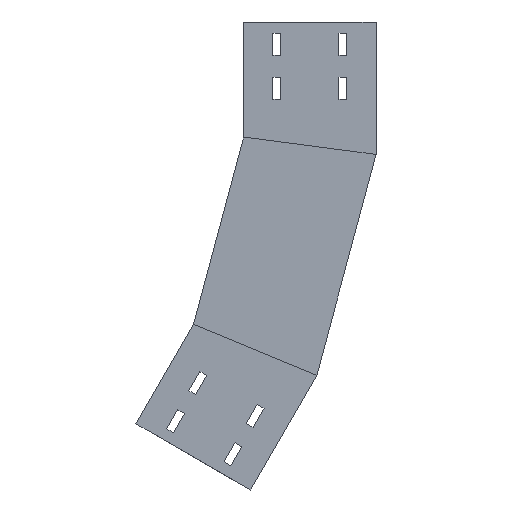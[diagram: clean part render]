
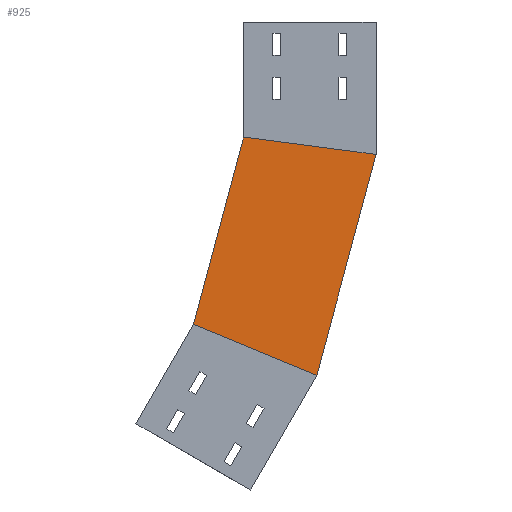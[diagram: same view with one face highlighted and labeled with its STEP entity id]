
A CAD part, left-side view. The second image highlights one B-rep face of the part: STEP entity #925.
In plain terms, the highlighted planar face has unit normal (-1, 0, 0) as drawn and (1, 0, 0) by its records, which use the part's own axes.
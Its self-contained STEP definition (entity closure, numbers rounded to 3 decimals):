
#60 = FACE_OUTER_BOUND ( 'NONE', #1202, .T. ) ;
#98 = VECTOR ( 'NONE', #432, 1000. ) ;
#104 = EDGE_CURVE ( 'NONE', #1517, #222, #1933, .T. ) ;
#147 = EDGE_CURVE ( 'NONE', #1562, #474, #1779, .T. ) ;
#219 = DIRECTION ( 'NONE',  ( 0., -0.991, -0.131 ) ) ;
#222 = VERTEX_POINT ( 'NONE', #1341 ) ;
#343 = LINE ( 'NONE', #1899, #1320 ) ;
#351 = CARTESIAN_POINT ( 'NONE',  ( 0., 0., -150. ) ) ;
#432 = DIRECTION ( 'NONE',  ( 0., 0.259, -0.966 ) ) ;
#444 = CARTESIAN_POINT ( 'NONE',  ( 0., 206.812, -342.277 ) ) ;
#474 = VERTEX_POINT ( 'NONE', #1756 ) ;
#538 = CARTESIAN_POINT ( 'NONE',  ( 0., 98.267, -387.238 ) ) ;
#623 = AXIS2_PLACEMENT_3D ( 'NONE', #351, #975, #827 ) ;
#661 = VECTOR ( 'NONE', #987, 1000. ) ;
#816 = DIRECTION ( 'NONE',  ( 0., 0.259, -0.966 ) ) ;
#820 = PLANE ( 'NONE',  #623 ) ;
#827 = DIRECTION ( 'NONE',  ( 0., 0., 1. ) ) ;
#889 = CARTESIAN_POINT ( 'NONE',  ( 0., 19.411, -147.444 ) ) ;
#923 = CARTESIAN_POINT ( 'NONE',  ( 0., 150., -130.252 ) ) ;
#925 = ADVANCED_FACE ( 'NONE', ( #60 ), #820, .F. ) ;
#975 = DIRECTION ( 'NONE',  ( -1., 0., 0. ) ) ;
#987 = DIRECTION ( 'NONE',  ( 0., -0.924, -0.383 ) ) ;
#1036 = CARTESIAN_POINT ( 'NONE',  ( 0., 144.889, -111.177 ) ) ;
#1202 = EDGE_LOOP ( 'NONE', ( #1573, #1803, #1915, #1293 ) ) ;
#1293 = ORIENTED_EDGE ( 'NONE', *, *, #104, .F. ) ;
#1320 = VECTOR ( 'NONE', #816, 1000. ) ;
#1341 = CARTESIAN_POINT ( 'NONE',  ( 0., 67.034, -400.175 ) ) ;
#1517 = VERTEX_POINT ( 'NONE', #444 ) ;
#1562 = VERTEX_POINT ( 'NONE', #923 ) ;
#1573 = ORIENTED_EDGE ( 'NONE', *, *, #2006, .F. ) ;
#1588 = EDGE_CURVE ( 'NONE', #474, #222, #343, .T. ) ;
#1692 = VECTOR ( 'NONE', #219, 1000. ) ;
#1756 = CARTESIAN_POINT ( 'NONE',  ( 0., 0., -150. ) ) ;
#1779 = LINE ( 'NONE', #889, #1692 ) ;
#1803 = ORIENTED_EDGE ( 'NONE', *, *, #147, .T. ) ;
#1899 = CARTESIAN_POINT ( 'NONE',  ( 0., 0., -150. ) ) ;
#1915 = ORIENTED_EDGE ( 'NONE', *, *, #1588, .T. ) ;
#1933 = LINE ( 'NONE', #538, #661 ) ;
#2002 = LINE ( 'NONE', #1036, #98 ) ;
#2006 = EDGE_CURVE ( 'NONE', #1562, #1517, #2002, .T. ) ;
